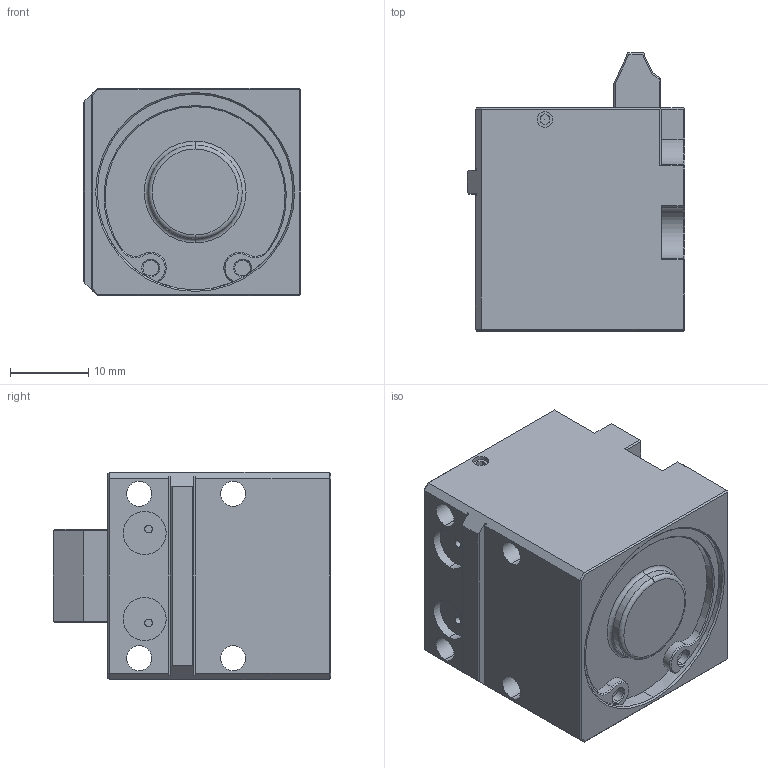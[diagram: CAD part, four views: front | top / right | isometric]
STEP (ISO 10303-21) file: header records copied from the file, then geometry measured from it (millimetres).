
FILE_DESCRIPTION((''),'2;1');
FILE_NAME('PRT0009','2014-01-08T',('yfs-01'),('foxconn'),'PRO/ENGINEER BY PARAMETRIC TECHNOLOGY CORPORATION, 2007230','PRO/ENGINEER BY PARAMETRIC TECHNOLOGY CORPORATION, 2007230','');
FILE_SCHEMA(('CONFIG_CONTROL_DESIGN'));
Length unit declared in the file: millimetre
Products named in the file (1): PRT0009
Bounding box: 27.8 x 35.5 x 26.5 mm (x, y, z)
Volume: 18733 mm3; surface area: 5880.1 mm2
Topology: 1 solids, 1 shells, 176 faces, 468 edges, 309 vertices
Faces by surface type: plane 112, cylinder 43, cone 17, torus 4
Entity records: 5557 total; most frequent: CARTESIAN_POINT 989, DIRECTION 955, ORIENTED_EDGE 936, EDGE_CURVE 468, AXIS2_PLACEMENT_3D 319, VECTOR 317, LINE 317, VERTEX_POINT 309
